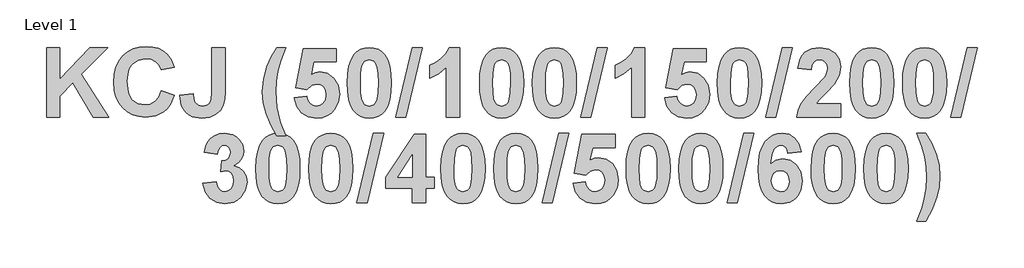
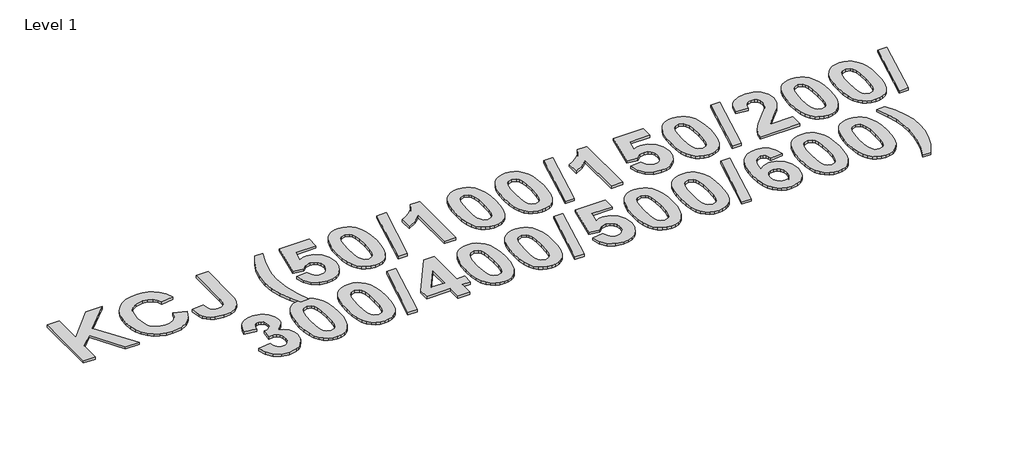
# One storey, part 14 of 42: 1 proxy.
"""IFC4 building model written with IfcOpenShell, lengths in millimetres."""

from ifc_helpers import new_model, si_unit, origin, origin_with_axes, place, context, project, spatial, polyline, outline, extrude, element, save

model = new_model("IFC4")

# Units and contexts
model_context = context("Model", 3, world=origin())
ifc_project = project(units=[si_unit("LENGTHUNIT", "METRE", prefix="MILLI")], contexts=[model_context])

# Site, building, storey
site = spatial("IfcSite", under=ifc_project)
building = spatial("IfcBuilding", under=site)
storey = spatial("IfcBuildingStorey", under=building, Name="Level 1", Elevation=0.0)

# Proxy
placement = place(None, origin())
element("IfcBuildingElementProxy", 1, Name="300mm Arial 2", ObjectType="300mm Arial 2", at=placement, inside=storey, context=model_context, shape_type="SweptSolid", body=[
    extrude(outline(polyline([(-32214.3228423, 14750.7560955), (-32214.3228423, 15005.8209455), (-32165.7390614, 15005.8209455), (-32165.7390614, 14889.5488239), (-32056.299034, 15005.8209455), (-31989.6228554, 15005.8209455), (-32086.157816, 14908.400343), (-31985.574207, 14750.7560955), (-32042.381805, 14750.7560955), (-32117.7246216, 14876.4539767), (-32165.7390614, 14827.9334558), (-32165.7390614, 14750.7560955), (-32214.3228423, 14750.7560955)])), origin_with_axes(), (0.0, 0.0, 1.0), 10.0),
    extrude(outline(polyline([(-31793.2634074, 14847.9236574), (-31744.6796265, 14831.7290637), (-31760.0043933, 14795.9475519), (-31770.5253439, 14782.012531), (-31782.952006, 14770.7146669), (-31813.3168691, 14755.7457383), (-31850.8933872, 14750.7560955), (-31875.2208615, 14752.8871712), (-31897.2788785, 14759.2803982), (-31917.0674384, 14769.9357766), (-31934.5865411, 14784.8533063), (-31948.9228683, 14803.4676), (-31959.1631021, 14825.2132702), (-31965.3072424, 14850.0903169), (-31967.3552891, 14878.0987401), (-31965.2894505, 14907.6333139), (-31959.0919345, 14933.6727655), (-31948.7627411, 14956.2170949), (-31934.3018705, 14975.266302), (-31916.4723978, 14990.4052422), (-31896.0373985, 15001.2187709), (-31872.9968725, 15007.7068881), (-31847.3508198, 15009.8695939), (-31824.9251032, 15008.0864489), (-31804.7134912, 15002.7370141), (-31786.7159838, 14993.8212893), (-31770.932581, 14981.3392746), (-31755.6078142, 14960.827177), (-31744.6796265, 14932.945274), (-31793.2634074, 14924.8479772), (-31800.7043804, 14941.6514496), (-31813.4117593, 14954.4853488), (-31830.4050121, 14962.6221832), (-31850.7036068, 14965.3344613), (-31878.1505963, 14960.4080786), (-31899.888359, 14945.6289304), (-31908.1497367, 14934.2519911), (-31914.0507209, 14919.8267043), (-31918.7715082, 14881.8310878), (-31914.1930562, 14841.7557946), (-31908.4699912, 14826.7710509), (-31900.4577001, 14815.1549093), (-31879.3841689, 14800.2571483), (-31852.7911911, 14795.291228), (-31832.7140069, 14798.4621421), (-31815.6258639, 14807.9748844), (-31802.2384386, 14824.3039058), (-31793.2634074, 14847.9236574)])), origin_with_axes(), (0.0, 0.0, 1.0), 10.0),
    extrude(outline(polyline([(-31607.0255804, 15005.8209455), (-31558.4417995, 15005.8209455), (-31558.4417995, 14844.5708704), (-31559.8651524, 14816.5782622), (-31564.1352113, 14795.8605692), (-31574.8261735, 14775.8387376), (-31591.7166286, 14760.1818551), (-31614.9014668, 14750.0760491), (-31644.4755782, 14746.7074471), (-31678.4462688, 14752.1082808), (-31692.1104572, 14758.8593229), (-31703.560541, 14768.310782), (-31712.6225548, 14780.3756751), (-31719.1225334, 14794.9670198), (-31724.4363844, 14831.7290637), (-31675.8526034, 14835.7777121), (-31673.6226838, 14817.1476034), (-31668.8307289, 14804.906768), (-31657.4122751, 14794.6586267), (-31641.2493115, 14791.2425796), (-31625.2682208, 14793.6939097), (-31614.7749465, 14801.0479), (-31608.962922, 14816.1038113), (-31607.0255804, 14841.6609044), (-31607.0255804, 15005.8209455)])), origin_with_axes(), (0.0, 0.0, 1.0), 10.0),
    extrude(outline(polyline([(-31335.7661368, 14681.9290725), (-31368.1553241, 14681.9290725), (-31390.8261737, 14721.6010824), (-31407.3449755, 14762.8071505), (-31417.427059, 14804.1081088), (-31420.7877535, 14844.0647894), (-31416.6758449, 14891.4624428), (-31404.3401193, 14936.2348009), (-31388.1455256, 14972.5144863), (-31368.1553241, 15005.8209455), (-31335.7661368, 15005.8209455), (-31353.3287308, 14958.5814423), (-31364.3913463, 14918.964785), (-31370.2508159, 14882.0841284), (-31372.2039725, 14843.0526273), (-31367.5227228, 14786.4031795), (-31354.6809161, 14731.3352351), (-31335.7661368, 14681.9290725)])), origin_with_axes(), (0.0, 0.0, 1.0), 10.0),
    extrude(outline(polyline([(-31303.3769495, 14822.5563447), (-31258.841817, 14827.6804153), (-31254.6982783, 14812.608689), (-31246.4428312, 14801.0479), (-31235.3406781, 14793.6939097), (-31222.6570218, 14791.2425796), (-31208.4630298, 14793.8441525), (-31196.6254777, 14801.6488712), (-31188.6309786, 14814.6883658), (-31185.9661455, 14832.9942664), (-31188.4411982, 14850.153577), (-31195.8663561, 14862.4102275), (-31207.2610873, 14869.7642178), (-31221.6448597, 14872.2155479), (-31240.4647488, 14867.1547373), (-31257.1970535, 14851.9723058), (-31299.3283011, 14858.2350588), (-31270.9877622, 15001.7722971), (-31149.5283098, 15001.7722971), (-31149.5283098, 14953.1885161), (-31231.7032206, 14953.1885161), (-31241.5085409, 14906.8188398), (-31226.0256238, 14914.2677202), (-31210.1947759, 14916.7506804), (-31182.0756474, 14911.0019159), (-31158.5745086, 14893.7556226), (-31142.6804006, 14867.3366102), (-31137.3823646, 14834.0696886), (-31141.7947587, 14805.1439935), (-31155.0319412, 14779.4761952), (-31168.249355, 14765.1398679), (-31183.799486, 14754.8996341), (-31201.6823344, 14748.7554938), (-31221.8979002, 14746.7074471), (-31252.9032721, 14751.8473327), (-31277.5984459, 14767.2669898), (-31294.8131092, 14791.3690999), (-31303.3769495, 14822.5563447)])), origin_with_axes(), (0.0, 0.0, 1.0), 10.0),
    extrude(outline(polyline([(-31028.0688574, 15005.8209455), (-31010.9372231, 15004.176182), (-30995.7903754, 14999.2418918), (-30982.6283143, 14991.0180747), (-30971.4510398, 14979.5047308), (-30960.7956614, 14961.3767494), (-30953.1846768, 14938.1167898), (-30948.6180861, 14909.724852), (-30947.0958892, 14876.2009361), (-30948.6259936, 14842.7086503), (-30953.2163069, 14814.2850825), (-30960.8668291, 14790.9302327), (-30971.5775601, 14772.644101), (-30982.6994819, 14761.2968149), (-30995.8220054, 14753.1916105), (-31010.9451306, 14748.3284879), (-31028.0688574, 14746.7074471), (-31045.376434, 14748.4866383), (-31060.9245882, 14753.8242118), (-31074.71332, 14762.7201678), (-31086.7426294, 14775.1745062), (-31096.4985278, 14792.1954353), (-31103.4670266, 14814.7911635), (-31107.6481259, 14842.9616908), (-31109.0418257, 14876.7070172), (-31107.5117213, 14910.0332452), (-31102.921408, 14938.3382002), (-31095.2708858, 14961.6218824), (-31084.5601548, 14979.8842916), (-31073.438233, 14991.2315776), (-31060.3157094, 14999.336782), (-31045.1925843, 15004.1999046), (-31028.0688574, 15005.8209455)]), holes=[polyline([(-31028.0688574, 14961.2858129), (-31044.2634511, 14955.9403318), (-31050.5894642, 14948.4677288), (-31055.270714, 14936.7408819), (-31059.161212, 14912.5913267), (-31060.4580447, 14876.2009361), (-31059.3035473, 14840.292904), (-31055.8400551, 14817.7169446), (-31050.6131868, 14804.4639471), (-31044.1685609, 14796.5248006), (-31028.0688574, 14791.2425796), (-31011.8742638, 14796.5880607), (-31005.5482506, 14804.0606637), (-31000.8670009, 14815.7875106), (-30996.9765028, 14839.8105455), (-30995.6796701, 14876.2009361), (-30996.8341675, 14912.0694307), (-31000.2976597, 14934.6532976), (-31005.5245281, 14947.9458327), (-31011.969154, 14955.9403318), (-31028.0688574, 14961.2858129)])]), origin_with_axes(), (0.0, 0.0, 1.0), 10.0),
    extrude(outline(polyline([(-30931.7869374, 14750.7560955), (-30871.0572112, 15005.8209455), (-30833.7337336, 15005.8209455), (-30894.4634598, 14750.7560955), (-30931.7869374, 14750.7560955)])), origin_with_axes(), (0.0, 0.0, 1.0), 10.0),
    extrude(outline(polyline([(-30696.0796876, 14750.7560955), (-30744.6634686, 14750.7560955), (-30744.6634686, 14933.0717943), (-30772.7193369, 14909.1910947), (-30805.3931947, 14892.4587899), (-30805.3931947, 14941.0425709), (-30785.9248893, 14950.1283072), (-30764.8434505, 14964.8600104), (-30746.3873071, 14983.8775874), (-30734.7948881, 15005.8209455), (-30696.0796876, 15005.8209455), (-30696.0796876, 14750.7560955)])), origin_with_axes(), (0.0, 0.0, 1.0), 10.0),
    extrude(outline(polyline([(-30542.2310479, 15005.8209455), (-30525.0994136, 15004.176182), (-30509.9525659, 14999.2418918), (-30496.7905048, 14991.0180747), (-30485.6132303, 14979.5047308), (-30474.9578519, 14961.3767494), (-30467.3468673, 14938.1167898), (-30462.7802766, 14909.724852), (-30461.2580797, 14876.2009361), (-30462.7881841, 14842.7086503), (-30467.3784974, 14814.2850825), (-30475.0290195, 14790.9302327), (-30485.7397506, 14772.644101), (-30496.8616724, 14761.2968149), (-30509.9841959, 14753.1916105), (-30525.1073211, 14748.3284879), (-30542.2310479, 14746.7074471), (-30559.5386245, 14748.4866383), (-30575.0867787, 14753.8242118), (-30588.8755105, 14762.7201678), (-30600.9048199, 14775.1745062), (-30610.6607182, 14792.1954353), (-30617.6292171, 14814.7911635), (-30621.8103164, 14842.9616908), (-30623.2040162, 14876.7070172), (-30621.6739118, 14910.0332452), (-30617.0835985, 14938.3382002), (-30609.4330763, 14961.6218824), (-30598.7223453, 14979.8842916), (-30587.6004235, 14991.2315776), (-30574.4778999, 14999.336782), (-30559.3547748, 15004.1999046), (-30542.2310479, 15005.8209455)]), holes=[polyline([(-30542.2310479, 14961.2858129), (-30558.4256416, 14955.9403318), (-30564.7516547, 14948.4677288), (-30569.4329045, 14936.7408819), (-30573.3234025, 14912.5913267), (-30574.6202352, 14876.2009361), (-30573.4657378, 14840.292904), (-30570.0022456, 14817.7169446), (-30564.7753773, 14804.4639471), (-30558.3307514, 14796.5248006), (-30542.2310479, 14791.2425796), (-30526.0364543, 14796.5880607), (-30519.7104411, 14804.0606637), (-30515.0291914, 14815.7875106), (-30511.1386933, 14839.8105455), (-30509.8418606, 14876.2009361), (-30510.996358, 14912.0694307), (-30514.4598502, 14934.6532976), (-30519.6867186, 14947.9458327), (-30526.1313445, 14955.9403318), (-30542.2310479, 14961.2858129)])]), origin_with_axes(), (0.0, 0.0, 1.0), 10.0),
    extrude(outline(polyline([(-30347.8959241, 15005.8209455), (-30330.7642898, 15004.176182), (-30315.6174421, 14999.2418918), (-30302.455381, 14991.0180747), (-30291.2781065, 14979.5047308), (-30280.6227281, 14961.3767494), (-30273.0117435, 14938.1167898), (-30268.4451528, 14909.724852), (-30266.9229559, 14876.2009361), (-30268.4530603, 14842.7086503), (-30273.0433736, 14814.2850825), (-30280.6938957, 14790.9302327), (-30291.4046268, 14772.644101), (-30302.5265486, 14761.2968149), (-30315.6490721, 14753.1916105), (-30330.7721973, 14748.3284879), (-30347.8959241, 14746.7074471), (-30365.2035007, 14748.4866383), (-30380.7516549, 14753.8242118), (-30394.5403867, 14762.7201678), (-30406.569696, 14775.1745062), (-30416.3255944, 14792.1954353), (-30423.2940933, 14814.7911635), (-30427.4751926, 14842.9616908), (-30428.8688924, 14876.7070172), (-30427.338788, 14910.0332452), (-30422.7484747, 14938.3382002), (-30415.0979525, 14961.6218824), (-30404.3872215, 14979.8842916), (-30393.2652997, 14991.2315776), (-30380.1427761, 14999.336782), (-30365.019651, 15004.1999046), (-30347.8959241, 15005.8209455)]), holes=[polyline([(-30347.8959241, 14961.2858129), (-30364.0905178, 14955.9403318), (-30370.4165309, 14948.4677288), (-30375.0977807, 14936.7408819), (-30378.9882787, 14912.5913267), (-30380.2851114, 14876.2009361), (-30379.130614, 14840.292904), (-30375.6671218, 14817.7169446), (-30370.4402535, 14804.4639471), (-30363.9956276, 14796.5248006), (-30347.8959241, 14791.2425796), (-30331.7013305, 14796.5880607), (-30325.3753173, 14804.0606637), (-30320.6940676, 14815.7875106), (-30316.8035695, 14839.8105455), (-30315.5067368, 14876.2009361), (-30316.6612342, 14912.0694307), (-30320.1247264, 14934.6532976), (-30325.3515948, 14947.9458327), (-30331.7962207, 14955.9403318), (-30347.8959241, 14961.2858129)])]), origin_with_axes(), (0.0, 0.0, 1.0), 10.0),
    extrude(outline(polyline([(-30251.6140041, 14750.7560955), (-30190.8842779, 15005.8209455), (-30153.5608003, 15005.8209455), (-30214.2905265, 14750.7560955), (-30251.6140041, 14750.7560955)])), origin_with_axes(), (0.0, 0.0, 1.0), 10.0),
    extrude(outline(polyline([(-30015.9067543, 14750.7560955), (-30064.4905353, 14750.7560955), (-30064.4905353, 14933.0717943), (-30092.5464036, 14909.1910947), (-30125.2202614, 14892.4587899), (-30125.2202614, 14941.0425709), (-30105.751956, 14950.1283072), (-30084.6705172, 14964.8600104), (-30066.2143738, 14983.8775874), (-30054.6219548, 15005.8209455), (-30015.9067543, 15005.8209455), (-30015.9067543, 14750.7560955)])), origin_with_axes(), (0.0, 0.0, 1.0), 10.0),
    extrude(outline(polyline([(-29943.0310829, 14822.5563447), (-29898.4959503, 14827.6804153), (-29894.3524117, 14812.608689), (-29886.0969646, 14801.0479), (-29874.9948115, 14793.6939097), (-29862.3111552, 14791.2425796), (-29848.1171632, 14793.8441525), (-29836.2796111, 14801.6488712), (-29828.285112, 14814.6883658), (-29825.6202789, 14832.9942664), (-29828.0953316, 14850.153577), (-29835.5204895, 14862.4102275), (-29846.9152207, 14869.7642178), (-29861.2989931, 14872.2155479), (-29880.1188822, 14867.1547373), (-29896.8511869, 14851.9723058), (-29938.9824345, 14858.2350588), (-29910.6418956, 15001.7722971), (-29789.1824432, 15001.7722971), (-29789.1824432, 14953.1885161), (-29871.357354, 14953.1885161), (-29881.1626743, 14906.8188398), (-29865.6797572, 14914.2677202), (-29849.8489093, 14916.7506804), (-29821.7297808, 14911.0019159), (-29798.228642, 14893.7556226), (-29782.334534, 14867.3366102), (-29777.036498, 14834.0696886), (-29781.4488921, 14805.1439935), (-29794.6860746, 14779.4761952), (-29807.9034884, 14765.1398679), (-29823.4536194, 14754.8996341), (-29841.3364678, 14748.7554938), (-29861.5520336, 14746.7074471), (-29892.5574055, 14751.8473327), (-29917.2525793, 14767.2669898), (-29934.4672426, 14791.3690999), (-29943.0310829, 14822.5563447)])), origin_with_axes(), (0.0, 0.0, 1.0), 10.0),
    extrude(outline(polyline([(-29667.7229908, 15005.8209455), (-29650.5913565, 15004.176182), (-29635.4445088, 14999.2418918), (-29622.2824477, 14991.0180747), (-29611.1051732, 14979.5047308), (-29600.4497948, 14961.3767494), (-29592.8388102, 14938.1167898), (-29588.2722195, 14909.724852), (-29586.7500226, 14876.2009361), (-29588.280127, 14842.7086503), (-29592.8704403, 14814.2850825), (-29600.5209624, 14790.9302327), (-29611.2316934, 14772.644101), (-29622.3536153, 14761.2968149), (-29635.4761388, 14753.1916105), (-29650.599264, 14748.3284879), (-29667.7229908, 14746.7074471), (-29685.0305674, 14748.4866383), (-29700.5787216, 14753.8242118), (-29714.3674534, 14762.7201678), (-29726.3967627, 14775.1745062), (-29736.1526611, 14792.1954353), (-29743.12116, 14814.7911635), (-29747.3022593, 14842.9616908), (-29748.6959591, 14876.7070172), (-29747.1658547, 14910.0332452), (-29742.5755414, 14938.3382002), (-29734.9250192, 14961.6218824), (-29724.2142882, 14979.8842916), (-29713.0923664, 14991.2315776), (-29699.9698428, 14999.336782), (-29684.8467177, 15004.1999046), (-29667.7229908, 15005.8209455)]), holes=[polyline([(-29667.7229908, 14961.2858129), (-29683.9175845, 14955.9403318), (-29690.2435976, 14948.4677288), (-29694.9248474, 14936.7408819), (-29698.8153454, 14912.5913267), (-29700.1121781, 14876.2009361), (-29698.9576807, 14840.292904), (-29695.4941885, 14817.7169446), (-29690.2673202, 14804.4639471), (-29683.8226943, 14796.5248006), (-29667.7229908, 14791.2425796), (-29651.5283972, 14796.5880607), (-29645.202384, 14804.0606637), (-29640.5211343, 14815.7875106), (-29636.6306362, 14839.8105455), (-29635.3338035, 14876.2009361), (-29636.4883009, 14912.0694307), (-29639.9517931, 14934.6532976), (-29645.1786615, 14947.9458327), (-29651.6232874, 14955.9403318), (-29667.7229908, 14961.2858129)])]), origin_with_axes(), (0.0, 0.0, 1.0), 10.0),
    extrude(outline(polyline([(-29571.4410708, 14750.7560955), (-29510.7113446, 15005.8209455), (-29473.387867, 15005.8209455), (-29534.1175932, 14750.7560955), (-29571.4410708, 14750.7560955)])), origin_with_axes(), (0.0, 0.0, 1.0), 10.0),
    extrude(outline(polyline([(-29295.2473369, 14799.3398764), (-29295.2473369, 14750.7560955), (-29457.1932734, 14750.7560955), (-29452.0217576, 14775.2614889), (-29441.6945412, 14798.4226045), (-29422.5109063, 14824.6043914), (-29390.7701354, 14858.1717987), (-29353.1936173, 14898.9113233), (-29346.1717427, 14913.6193039), (-29343.8311178, 14928.137504), (-29345.8000894, 14942.2840509), (-29351.7070042, 14952.7140651), (-29361.0774112, 14959.142876), (-29373.4368593, 14961.2858129), (-29385.7093248, 14959.174506), (-29395.1983446, 14952.8405854), (-29401.5876178, 14941.6198196), (-29404.560844, 14924.8479772), (-29453.144625, 14929.2761864), (-29444.5412471, 14964.4250969), (-29436.9184012, 14977.6642563), (-29427.0814508, 14988.0132185), (-29402.4574446, 15001.3690137), (-29372.3614371, 15005.8209455), (-29340.2252903, 15000.8313026), (-29315.8068796, 14985.862374), (-29300.3872226, 14963.476195), (-29295.2473369, 14936.2348009), (-29300.8774886, 14904.0986541), (-29318.7168456, 14872.1522877), (-29348.9235584, 14840.2691815), (-29376.663126, 14812.624504), (-29385.772585, 14799.3398764), (-29295.2473369, 14799.3398764)])), origin_with_axes(), (0.0, 0.0, 1.0), 10.0),
    extrude(outline(polyline([(-29181.8851813, 15005.8209455), (-29164.753547, 15004.176182), (-29149.6066993, 14999.2418918), (-29136.4446382, 14991.0180747), (-29125.2673637, 14979.5047308), (-29114.6119853, 14961.3767494), (-29107.0010007, 14938.1167898), (-29102.43441, 14909.724852), (-29100.9122131, 14876.2009361), (-29102.4423175, 14842.7086503), (-29107.0326308, 14814.2850825), (-29114.6831529, 14790.9302327), (-29125.3938839, 14772.644101), (-29136.5158058, 14761.2968149), (-29149.6383293, 14753.1916105), (-29164.7614545, 14748.3284879), (-29181.8851813, 14746.7074471), (-29199.1927579, 14748.4866383), (-29214.7409121, 14753.8242118), (-29228.5296439, 14762.7201678), (-29240.5589532, 14775.1745062), (-29250.3148516, 14792.1954353), (-29257.2833505, 14814.7911635), (-29261.4644498, 14842.9616908), (-29262.8581496, 14876.7070172), (-29261.3280451, 14910.0332452), (-29256.7377319, 14938.3382002), (-29249.0872097, 14961.6218824), (-29238.3764787, 14979.8842916), (-29227.2545568, 14991.2315776), (-29214.1320333, 14999.336782), (-29199.0089082, 15004.1999046), (-29181.8851813, 15005.8209455)]), holes=[polyline([(-29181.8851813, 14961.2858129), (-29198.079775, 14955.9403318), (-29204.4057881, 14948.4677288), (-29209.0870378, 14936.7408819), (-29212.9775359, 14912.5913267), (-29214.2743686, 14876.2009361), (-29213.1198712, 14840.292904), (-29209.656379, 14817.7169446), (-29204.4295107, 14804.4639471), (-29197.9848848, 14796.5248006), (-29181.8851813, 14791.2425796), (-29165.6905877, 14796.5880607), (-29159.3645745, 14804.0606637), (-29154.6833248, 14815.7875106), (-29150.7928267, 14839.8105455), (-29149.495994, 14876.2009361), (-29150.6504914, 14912.0694307), (-29154.1139836, 14934.6532976), (-29159.340852, 14947.9458327), (-29165.7854779, 14955.9403318), (-29181.8851813, 14961.2858129)])]), origin_with_axes(), (0.0, 0.0, 1.0), 10.0),
    extrude(outline(polyline([(-28987.5500575, 15005.8209455), (-28970.4184232, 15004.176182), (-28955.2715755, 14999.2418918), (-28942.1095144, 14991.0180747), (-28930.9322399, 14979.5047308), (-28920.2768615, 14961.3767494), (-28912.6658769, 14938.1167898), (-28908.0992862, 14909.724852), (-28906.5770893, 14876.2009361), (-28908.1071937, 14842.7086503), (-28912.697507, 14814.2850825), (-28920.3480291, 14790.9302327), (-28931.0587601, 14772.644101), (-28942.180682, 14761.2968149), (-28955.3032055, 14753.1916105), (-28970.4263307, 14748.3284879), (-28987.5500575, 14746.7074471), (-29004.8576341, 14748.4866383), (-29020.4057883, 14753.8242118), (-29034.1945201, 14762.7201678), (-29046.2238294, 14775.1745062), (-29055.9797278, 14792.1954353), (-29062.9482267, 14814.7911635), (-29067.129326, 14842.9616908), (-29068.5230258, 14876.7070172), (-29066.9929213, 14910.0332452), (-29062.4026081, 14938.3382002), (-29054.7520859, 14961.6218824), (-29044.0413549, 14979.8842916), (-29032.919433, 14991.2315776), (-29019.7969095, 14999.336782), (-29004.6737844, 15004.1999046), (-28987.5500575, 15005.8209455)]), holes=[polyline([(-28987.5500575, 14961.2858129), (-29003.7446512, 14955.9403318), (-29010.0706643, 14948.4677288), (-29014.751914, 14936.7408819), (-29018.6424121, 14912.5913267), (-29019.9392448, 14876.2009361), (-29018.7847474, 14840.292904), (-29015.3212552, 14817.7169446), (-29010.0943869, 14804.4639471), (-29003.649761, 14796.5248006), (-28987.5500575, 14791.2425796), (-28971.3554639, 14796.5880607), (-28965.0294507, 14804.0606637), (-28960.348201, 14815.7875106), (-28956.4577029, 14839.8105455), (-28955.1608702, 14876.2009361), (-28956.3153676, 14912.0694307), (-28959.7788598, 14934.6532976), (-28965.0057282, 14947.9458327), (-28971.4503541, 14955.9403318), (-28987.5500575, 14961.2858129)])]), origin_with_axes(), (0.0, 0.0, 1.0), 10.0),
    extrude(outline(polyline([(-28891.2681375, 14750.7560955), (-28830.5384113, 15005.8209455), (-28793.2149337, 15005.8209455), (-28853.9446599, 14750.7560955), (-28891.2681375, 14750.7560955)])), origin_with_axes(), (0.0, 0.0, 1.0), 10.0),
    extrude(outline(polyline([(-31639.4147677, 14507.271889), (-31590.8309868, 14512.9020407), (-31587.082824, 14497.2767882), (-31579.886984, 14485.8267045), (-31570.0342186, 14478.8048299), (-31558.3152792, 14476.464205), (-31545.7423281, 14479.1448531), (-31535.3518515, 14487.1867973), (-31528.377422, 14499.7676559), (-31526.0526122, 14516.0650473), (-31528.1797341, 14531.4847043), (-31534.5610999, 14543.3301639), (-31544.010582, 14550.8739346), (-31555.342053, 14553.3885248), (-31574.6363931, 14549.7826973), (-31570.3979643, 14589.8263606), (-31556.5677181, 14591.5660142), (-31546.4540046, 14597.7971371), (-31540.2624192, 14607.6657176), (-31538.1985574, 14620.3177439), (-31539.7405231, 14631.0640587), (-31544.3664202, 14639.3906735), (-31551.5543527, 14644.7282471), (-31560.7824243, 14646.5074383), (-31570.1686463, 14644.4435765), (-31578.0840703, 14638.2519912), (-31583.8486498, 14628.0908326), (-31586.7823384, 14614.118251), (-31635.3661193, 14621.3931661), (-31629.8071353, 14643.1309288), (-31621.9866015, 14660.0134764), (-31611.2640092, 14672.9264507), (-31596.9988496, 14682.7554936), (-31580.0055968, 14688.9708016), (-31561.098725, 14691.0425709), (-31530.4491913, 14685.3017139), (-31517.6627372, 14678.1256428), (-31506.5684917, 14668.0791431), (-31493.8532053, 14648.0573115), (-31489.6147765, 14625.5683348), (-31491.8881874, 14609.6228279), (-31498.7084204, 14595.3774371), (-31510.0754752, 14582.8321623), (-31525.989352, 14571.9870035), (-31506.1256708, 14564.4353253), (-31490.6901987, 14551.1427902), (-31480.7741731, 14533.2797106), (-31477.4688312, 14512.0163989), (-31483.3283009, 14481.2482524), (-31500.9067099, 14455.3669512), (-31513.3432564, 14445.1128792), (-31527.2150171, 14437.7885421), (-31559.2641812, 14431.9290725), (-31589.5262466, 14437.1401258), (-31614.1423452, 14452.7732858), (-31631.3570085, 14476.8200432), (-31639.4147677, 14507.271889)])), origin_with_axes(), (0.0, 0.0, 1.0), 10.0),
    extrude(outline(polyline([(-31364.1066757, 14691.0425709), (-31346.9750413, 14689.3978074), (-31331.8281936, 14684.4635172), (-31318.6661325, 14676.2397001), (-31307.488858, 14664.7263562), (-31296.8334796, 14646.5983748), (-31289.2224951, 14623.3384152), (-31284.6559043, 14594.9464774), (-31283.1337074, 14561.4225615), (-31284.6638119, 14527.9302757), (-31289.2541251, 14499.5067079), (-31296.9046473, 14476.1518581), (-31307.6153783, 14457.8657264), (-31318.7373002, 14446.5184403), (-31331.8598237, 14438.4132359), (-31346.9829488, 14433.5501133), (-31364.1066757, 14431.9290725), (-31381.4142523, 14433.7082637), (-31396.9624064, 14439.0458372), (-31410.7511382, 14447.9417932), (-31422.7804476, 14460.3961316), (-31432.536346, 14477.4170607), (-31439.5048448, 14500.0127889), (-31443.6859442, 14528.1833162), (-31445.0796439, 14561.9286426), (-31443.5495395, 14595.2548706), (-31438.9592262, 14623.5598256), (-31431.3087041, 14646.8435078), (-31420.5979731, 14665.105917), (-31409.4760512, 14676.453203), (-31396.3535277, 14684.5584074), (-31381.2304025, 14689.42153), (-31364.1066757, 14691.0425709)]), holes=[polyline([(-31364.1066757, 14646.5074383), (-31380.3012693, 14641.1619572), (-31386.6272825, 14633.6893542), (-31391.3085322, 14621.9625073), (-31395.1990303, 14597.8129521), (-31396.495863, 14561.4225615), (-31395.3413656, 14525.5145294), (-31391.8778734, 14502.93857), (-31386.651005, 14489.6855725), (-31380.2063791, 14481.746426), (-31364.1066757, 14476.464205), (-31347.912082, 14481.8096861), (-31341.5860689, 14489.2822891), (-31336.9048192, 14501.009136), (-31333.0143211, 14525.0321709), (-31331.7174884, 14561.4225615), (-31332.8719858, 14597.2910561), (-31336.335478, 14619.874923), (-31341.5623463, 14633.1674581), (-31348.0069722, 14641.1619572), (-31364.1066757, 14646.5074383)])]), origin_with_axes(), (0.0, 0.0, 1.0), 10.0),
    extrude(outline(polyline([(-31169.7715519, 14691.0425709), (-31152.6399175, 14689.3978074), (-31137.4930698, 14684.4635172), (-31124.3310087, 14676.2397001), (-31113.1537342, 14664.7263562), (-31102.4983558, 14646.5983748), (-31094.8873713, 14623.3384152), (-31090.3207805, 14594.9464774), (-31088.7985836, 14561.4225615), (-31090.3286881, 14527.9302757), (-31094.9190013, 14499.5067079), (-31102.5695235, 14476.1518581), (-31113.2802545, 14457.8657264), (-31124.4021764, 14446.5184403), (-31137.5246999, 14438.4132359), (-31152.647825, 14433.5501133), (-31169.7715519, 14431.9290725), (-31187.0791285, 14433.7082637), (-31202.6272826, 14439.0458372), (-31216.4160144, 14447.9417932), (-31228.4453238, 14460.3961316), (-31238.2012222, 14477.4170607), (-31245.169721, 14500.0127889), (-31249.3508204, 14528.1833162), (-31250.7445201, 14561.9286426), (-31249.2144157, 14595.2548706), (-31244.6241024, 14623.5598256), (-31236.9735803, 14646.8435078), (-31226.2628493, 14665.105917), (-31215.1409274, 14676.453203), (-31202.0184039, 14684.5584074), (-31186.8952787, 14689.42153), (-31169.7715519, 14691.0425709)]), holes=[polyline([(-31169.7715519, 14646.5074383), (-31185.9661455, 14641.1619572), (-31192.2921587, 14633.6893542), (-31196.9734084, 14621.9625073), (-31200.8639065, 14597.8129521), (-31202.1607392, 14561.4225615), (-31201.0062418, 14525.5145294), (-31197.5427496, 14502.93857), (-31192.3158812, 14489.6855725), (-31185.8712553, 14481.746426), (-31169.7715519, 14476.464205), (-31153.5769582, 14481.8096861), (-31147.2509451, 14489.2822891), (-31142.5696954, 14501.009136), (-31138.6791973, 14525.0321709), (-31137.3823646, 14561.4225615), (-31138.536862, 14597.2910561), (-31142.0003542, 14619.874923), (-31147.2272225, 14633.1674581), (-31153.6718484, 14641.1619572), (-31169.7715519, 14646.5074383)])]), origin_with_axes(), (0.0, 0.0, 1.0), 10.0),
    extrude(outline(polyline([(-31073.4896318, 14435.9777209), (-31012.7599056, 14691.0425709), (-30975.4364281, 14691.0425709), (-31036.1661543, 14435.9777209), (-31073.4896318, 14435.9777209)])), origin_with_axes(), (0.0, 0.0, 1.0), 10.0),
    extrude(outline(polyline([(-30870.1715693, 14435.9777209), (-30870.1715693, 14488.6101502), (-30967.3391313, 14488.6101502), (-30967.3391313, 14528.906854), (-30863.7190359, 14686.9939225), (-30821.5877884, 14686.9939225), (-30821.5877884, 14529.0966344), (-30789.1986011, 14529.0966344), (-30789.1986011, 14488.6101502), (-30821.5877884, 14488.6101502), (-30821.5877884, 14435.9777209), (-30870.1715693, 14435.9777209)]), holes=[polyline([(-30870.1715693, 14529.0966344), (-30870.1715693, 14611.9674066), (-30924.4487621, 14529.0966344), (-30870.1715693, 14529.0966344)])]), origin_with_axes(), (0.0, 0.0, 1.0), 10.0),
    extrude(outline(polyline([(-30683.9337424, 14691.0425709), (-30666.802108, 14689.3978074), (-30651.6552603, 14684.4635172), (-30638.4931992, 14676.2397001), (-30627.3159247, 14664.7263562), (-30616.6605463, 14646.5983748), (-30609.0495618, 14623.3384152), (-30604.482971, 14594.9464774), (-30602.9607741, 14561.4225615), (-30604.4908786, 14527.9302757), (-30609.0811918, 14499.5067079), (-30616.731714, 14476.1518581), (-30627.442445, 14457.8657264), (-30638.5643669, 14446.5184403), (-30651.6868904, 14438.4132359), (-30666.8100155, 14433.5501133), (-30683.9337424, 14431.9290725), (-30701.241319, 14433.7082637), (-30716.7894731, 14439.0458372), (-30730.5782049, 14447.9417932), (-30742.6075143, 14460.3961316), (-30752.3634127, 14477.4170607), (-30759.3319115, 14500.0127889), (-30763.5130109, 14528.1833162), (-30764.9067106, 14561.9286426), (-30763.3766062, 14595.2548706), (-30758.7862929, 14623.5598256), (-30751.1357708, 14646.8435078), (-30740.4250398, 14665.105917), (-30729.3031179, 14676.453203), (-30716.1805944, 14684.5584074), (-30701.0574692, 14689.42153), (-30683.9337424, 14691.0425709)]), holes=[polyline([(-30683.9337424, 14646.5074383), (-30700.128336, 14641.1619572), (-30706.4543492, 14633.6893542), (-30711.1355989, 14621.9625073), (-30715.026097, 14597.8129521), (-30716.3229297, 14561.4225615), (-30715.1684323, 14525.5145294), (-30711.7049401, 14502.93857), (-30706.4780717, 14489.6855725), (-30700.0334458, 14481.746426), (-30683.9337424, 14476.464205), (-30667.7391487, 14481.8096861), (-30661.4131356, 14489.2822891), (-30656.7318859, 14501.009136), (-30652.8413878, 14525.0321709), (-30651.5445551, 14561.4225615), (-30652.6990525, 14597.2910561), (-30656.1625447, 14619.874923), (-30661.389413, 14633.1674581), (-30667.8340389, 14641.1619572), (-30683.9337424, 14646.5074383)])]), origin_with_axes(), (0.0, 0.0, 1.0), 10.0),
    extrude(outline(polyline([(-30489.5986186, 14691.0425709), (-30472.4669842, 14689.3978074), (-30457.3201365, 14684.4635172), (-30444.1580754, 14676.2397001), (-30432.9808009, 14664.7263562), (-30422.3254225, 14646.5983748), (-30414.714438, 14623.3384152), (-30410.1478472, 14594.9464774), (-30408.6256503, 14561.4225615), (-30410.1557548, 14527.9302757), (-30414.746068, 14499.5067079), (-30422.3965902, 14476.1518581), (-30433.1073212, 14457.8657264), (-30444.2292431, 14446.5184403), (-30457.3517666, 14438.4132359), (-30472.4748917, 14433.5501133), (-30489.5986186, 14431.9290725), (-30506.9061952, 14433.7082637), (-30522.4543493, 14439.0458372), (-30536.2430811, 14447.9417932), (-30548.2723905, 14460.3961316), (-30558.0282889, 14477.4170607), (-30564.9967877, 14500.0127889), (-30569.1778871, 14528.1833162), (-30570.5715868, 14561.9286426), (-30569.0414824, 14595.2548706), (-30564.4511691, 14623.5598256), (-30556.800647, 14646.8435078), (-30546.089916, 14665.105917), (-30534.9679941, 14676.453203), (-30521.8454706, 14684.5584074), (-30506.7223454, 14689.42153), (-30489.5986186, 14691.0425709)]), holes=[polyline([(-30489.5986186, 14646.5074383), (-30505.7932122, 14641.1619572), (-30512.1192254, 14633.6893542), (-30516.8004751, 14621.9625073), (-30520.6909732, 14597.8129521), (-30521.9878059, 14561.4225615), (-30520.8333085, 14525.5145294), (-30517.3698163, 14502.93857), (-30512.1429479, 14489.6855725), (-30505.698322, 14481.746426), (-30489.5986186, 14476.464205), (-30473.4040249, 14481.8096861), (-30467.0780118, 14489.2822891), (-30462.3967621, 14501.009136), (-30458.506264, 14525.0321709), (-30457.2094313, 14561.4225615), (-30458.3639287, 14597.2910561), (-30461.8274209, 14619.874923), (-30467.0542892, 14633.1674581), (-30473.4989151, 14641.1619572), (-30489.5986186, 14646.5074383)])]), origin_with_axes(), (0.0, 0.0, 1.0), 10.0),
    extrude(outline(polyline([(-30393.3166985, 14435.9777209), (-30332.5869723, 14691.0425709), (-30295.2634948, 14691.0425709), (-30355.993221, 14435.9777209), (-30393.3166985, 14435.9777209)])), origin_with_axes(), (0.0, 0.0, 1.0), 10.0),
    extrude(outline(polyline([(-30279.0689011, 14507.7779701), (-30234.5337686, 14512.9020407), (-30230.39023, 14497.8303144), (-30222.1347828, 14486.2695254), (-30211.0326298, 14478.9155351), (-30198.3489734, 14476.464205), (-30184.1549814, 14479.0657779), (-30172.3174293, 14486.8704966), (-30164.3229302, 14499.9099912), (-30161.6580972, 14518.2158918), (-30164.1331498, 14535.3752024), (-30171.5583077, 14547.6318529), (-30182.9530389, 14554.9858432), (-30197.3368113, 14557.4371732), (-30216.1567004, 14552.3763627), (-30232.8890052, 14537.1939312), (-30275.0202527, 14543.4566842), (-30246.6797138, 14686.9939225), (-30125.2202614, 14686.9939225), (-30125.2202614, 14638.4101415), (-30207.3951722, 14638.4101415), (-30217.2004926, 14592.0404652), (-30201.7175754, 14599.4893456), (-30185.8867275, 14601.9723058), (-30157.7675991, 14596.2235413), (-30134.2664602, 14578.977248), (-30118.3723522, 14552.5582356), (-30113.0743162, 14519.291314), (-30117.4867104, 14490.3656189), (-30130.7238929, 14464.6978206), (-30143.9413066, 14450.3614933), (-30159.4914377, 14440.1212595), (-30177.3742861, 14433.9771192), (-30197.5898518, 14431.9290725), (-30228.5952237, 14437.0689581), (-30253.2903976, 14452.4886152), (-30270.5050608, 14476.5907253), (-30279.0689011, 14507.7779701)])), origin_with_axes(), (0.0, 0.0, 1.0), 10.0),
    extrude(outline(polyline([(-30003.7608091, 14691.0425709), (-29986.6291747, 14689.3978074), (-29971.482327, 14684.4635172), (-29958.3202659, 14676.2397001), (-29947.1429914, 14664.7263562), (-29936.487613, 14646.5983748), (-29928.8766285, 14623.3384152), (-29924.3100377, 14594.9464774), (-29922.7878408, 14561.4225615), (-29924.3179452, 14527.9302757), (-29928.9082585, 14499.5067079), (-29936.5587807, 14476.1518581), (-29947.2695117, 14457.8657264), (-29958.3914335, 14446.5184403), (-29971.5139571, 14438.4132359), (-29986.6370822, 14433.5501133), (-30003.7608091, 14431.9290725), (-30021.0683857, 14433.7082637), (-30036.6165398, 14439.0458372), (-30050.4052716, 14447.9417932), (-30062.434581, 14460.3961316), (-30072.1904794, 14477.4170607), (-30079.1589782, 14500.0127889), (-30083.3400775, 14528.1833162), (-30084.7337773, 14561.9286426), (-30083.2036729, 14595.2548706), (-30078.6133596, 14623.5598256), (-30070.9628375, 14646.8435078), (-30060.2521064, 14665.105917), (-30049.1301846, 14676.453203), (-30036.0076611, 14684.5584074), (-30020.8845359, 14689.42153), (-30003.7608091, 14691.0425709)]), holes=[polyline([(-30003.7608091, 14646.5074383), (-30019.9554027, 14641.1619572), (-30026.2814159, 14633.6893542), (-30030.9626656, 14621.9625073), (-30034.8531637, 14597.8129521), (-30036.1499964, 14561.4225615), (-30034.995499, 14525.5145294), (-30031.5320068, 14502.93857), (-30026.3051384, 14489.6855725), (-30019.8605125, 14481.746426), (-30003.7608091, 14476.464205), (-29987.5662154, 14481.8096861), (-29981.2402023, 14489.2822891), (-29976.5589525, 14501.009136), (-29972.6684545, 14525.0321709), (-29971.3716218, 14561.4225615), (-29972.5261192, 14597.2910561), (-29975.9896114, 14619.874923), (-29981.2164797, 14633.1674581), (-29987.6611056, 14641.1619572), (-30003.7608091, 14646.5074383)])]), origin_with_axes(), (0.0, 0.0, 1.0), 10.0),
    extrude(outline(polyline([(-29809.4256853, 14691.0425709), (-29792.2940509, 14689.3978074), (-29777.1472032, 14684.4635172), (-29763.9851421, 14676.2397001), (-29752.8078676, 14664.7263562), (-29742.1524892, 14646.5983748), (-29734.5415047, 14623.3384152), (-29729.9749139, 14594.9464774), (-29728.452717, 14561.4225615), (-29729.9828214, 14527.9302757), (-29734.5731347, 14499.5067079), (-29742.2236569, 14476.1518581), (-29752.9343879, 14457.8657264), (-29764.0563097, 14446.5184403), (-29777.1788333, 14438.4132359), (-29792.3019584, 14433.5501133), (-29809.4256853, 14431.9290725), (-29826.7332619, 14433.7082637), (-29842.281416, 14439.0458372), (-29856.0701478, 14447.9417932), (-29868.0994572, 14460.3961316), (-29877.8553556, 14477.4170607), (-29884.8238544, 14500.0127889), (-29889.0049537, 14528.1833162), (-29890.3986535, 14561.9286426), (-29888.8685491, 14595.2548706), (-29884.2782358, 14623.5598256), (-29876.6277137, 14646.8435078), (-29865.9169826, 14665.105917), (-29854.7950608, 14676.453203), (-29841.6725373, 14684.5584074), (-29826.5494121, 14689.42153), (-29809.4256853, 14691.0425709)]), holes=[polyline([(-29809.4256853, 14646.5074383), (-29825.6202789, 14641.1619572), (-29831.9462921, 14633.6893542), (-29836.6275418, 14621.9625073), (-29840.5180399, 14597.8129521), (-29841.8148726, 14561.4225615), (-29840.6603752, 14525.5145294), (-29837.196883, 14502.93857), (-29831.9700146, 14489.6855725), (-29825.5253887, 14481.746426), (-29809.4256853, 14476.464205), (-29793.2310916, 14481.8096861), (-29786.9050785, 14489.2822891), (-29782.2238287, 14501.009136), (-29778.3333307, 14525.0321709), (-29777.036498, 14561.4225615), (-29778.1909954, 14597.2910561), (-29781.6544876, 14619.874923), (-29786.8813559, 14633.1674581), (-29793.3259818, 14641.1619572), (-29809.4256853, 14646.5074383)])]), origin_with_axes(), (0.0, 0.0, 1.0), 10.0),
    extrude(outline(polyline([(-29713.1437652, 14435.9777209), (-29652.414039, 14691.0425709), (-29615.0905615, 14691.0425709), (-29675.8202877, 14435.9777209), (-29713.1437652, 14435.9777209)])), origin_with_axes(), (0.0, 0.0, 1.0), 10.0),
    extrude(outline(polyline([(-29440.9986797, 14623.3542302), (-29489.5824607, 14618.1668994), (-29492.5556869, 14630.7635731), (-29498.1858386, 14639.5804539), (-29506.1882452, 14644.7756922), (-29516.2782361, 14646.5074383), (-29529.8791644, 14643.1467438), (-29541.2027279, 14633.0646604), (-29549.5056202, 14612.2283546), (-29554.0445346, 14576.6049931), (-29534.022703, 14592.5939913), (-29509.6359223, 14597.9236574), (-29481.809372, 14592.2302455), (-29458.3003257, 14575.1500101), (-29442.2876049, 14549.0710209), (-29436.9500313, 14516.3813479), (-29442.4062177, 14481.9441139), (-29449.2264506, 14467.5544109), (-29458.7747767, 14455.0506505), (-29470.4660397, 14444.9349601), (-29483.7150835, 14437.709467), (-29514.8865133, 14431.9290725), (-29532.4174772, 14433.7952463), (-29548.3194927, 14439.393768), (-29562.5925599, 14448.7246374), (-29575.2366787, 14461.7878545), (-29585.5876177, 14479.1013617), (-29592.9811455, 14501.1831014), (-29597.4172622, 14528.0330734), (-29598.8959678, 14559.6512779), (-29597.3520252, 14592.1037253), (-29592.7201975, 14619.6851426), (-29585.0004846, 14642.3955298), (-29574.1928865, 14660.2348868), (-29560.9181433, 14673.7132486), (-29545.796995, 14683.3406499), (-29528.8294416, 14689.1170906), (-29510.0154831, 14691.0425709), (-29484.6956155, 14686.7092519), (-29464.1518878, 14673.7092948), (-29449.2857569, 14652.4538907), (-29440.9986797, 14623.3542302)]), holes=[polyline([(-29550.3121869, 14517.4567702), (-29547.6868914, 14500.0365115), (-29539.811005, 14487.1235371), (-29528.5665167, 14479.129038), (-29515.8354152, 14476.464205), (-29503.9425105, 14478.6466795), (-29494.2004503, 14485.1941031), (-29487.7004718, 14496.7232621), (-29485.5338123, 14513.8509427), (-29487.8665296, 14531.6033171), (-29494.8646817, 14543.8678751), (-29505.357956, 14551.0083624), (-29518.1760401, 14553.3885248), (-29530.6145634, 14551.1111601), (-29540.9813175, 14544.2790659), (-29547.9794695, 14533.0187625), (-29550.3121869, 14517.4567702)])]), origin_with_axes(), (0.0, 0.0, 1.0), 10.0),
    extrude(outline(polyline([(-29323.5878758, 14691.0425709), (-29306.4562414, 14689.3978074), (-29291.3093937, 14684.4635172), (-29278.1473326, 14676.2397001), (-29266.9700581, 14664.7263562), (-29256.3146797, 14646.5983748), (-29248.7036952, 14623.3384152), (-29244.1371044, 14594.9464774), (-29242.6149075, 14561.4225615), (-29244.1450119, 14527.9302757), (-29248.7353252, 14499.5067079), (-29256.3858474, 14476.1518581), (-29267.0965784, 14457.8657264), (-29278.2185002, 14446.5184403), (-29291.3410238, 14438.4132359), (-29306.4641489, 14433.5501133), (-29323.5878758, 14431.9290725), (-29340.8954524, 14433.7082637), (-29356.4436065, 14439.0458372), (-29370.2323383, 14447.9417932), (-29382.2616477, 14460.3961316), (-29392.0175461, 14477.4170607), (-29398.9860449, 14500.0127889), (-29403.1671442, 14528.1833162), (-29404.560844, 14561.9286426), (-29403.0307396, 14595.2548706), (-29398.4404263, 14623.5598256), (-29390.7899042, 14646.8435078), (-29380.0791731, 14665.105917), (-29368.9572513, 14676.453203), (-29355.8347278, 14684.5584074), (-29340.7116026, 14689.42153), (-29323.5878758, 14691.0425709)]), holes=[polyline([(-29323.5878758, 14646.5074383), (-29339.7824694, 14641.1619572), (-29346.1084826, 14633.6893542), (-29350.7897323, 14621.9625073), (-29354.6802304, 14597.8129521), (-29355.9770631, 14561.4225615), (-29354.8225657, 14525.5145294), (-29351.3590735, 14502.93857), (-29346.1322051, 14489.6855725), (-29339.6875792, 14481.746426), (-29323.5878758, 14476.464205), (-29307.3932821, 14481.8096861), (-29301.067269, 14489.2822891), (-29296.3860192, 14501.009136), (-29292.4955212, 14525.0321709), (-29291.1986885, 14561.4225615), (-29292.3531859, 14597.2910561), (-29295.8166781, 14619.874923), (-29301.0435464, 14633.1674581), (-29307.4881723, 14641.1619572), (-29323.5878758, 14646.5074383)])]), origin_with_axes(), (0.0, 0.0, 1.0), 10.0),
    extrude(outline(polyline([(-29129.252752, 14691.0425709), (-29112.1211176, 14689.3978074), (-29096.9742699, 14684.4635172), (-29083.8122088, 14676.2397001), (-29072.6349343, 14664.7263562), (-29061.9795559, 14646.5983748), (-29054.3685714, 14623.3384152), (-29049.8019806, 14594.9464774), (-29048.2797837, 14561.4225615), (-29049.8098881, 14527.9302757), (-29054.4002014, 14499.5067079), (-29062.0507236, 14476.1518581), (-29072.7614546, 14457.8657264), (-29083.8833764, 14446.5184403), (-29097.0059, 14438.4132359), (-29112.1290251, 14433.5501133), (-29129.252752, 14431.9290725), (-29146.5603286, 14433.7082637), (-29162.1084827, 14439.0458372), (-29175.8972145, 14447.9417932), (-29187.9265239, 14460.3961316), (-29197.6824223, 14477.4170607), (-29204.6509211, 14500.0127889), (-29208.8320204, 14528.1833162), (-29210.2257202, 14561.9286426), (-29208.6956158, 14595.2548706), (-29204.1053025, 14623.5598256), (-29196.4547803, 14646.8435078), (-29185.7440493, 14665.105917), (-29174.6221275, 14676.453203), (-29161.499604, 14684.5584074), (-29146.3764788, 14689.42153), (-29129.252752, 14691.0425709)]), holes=[polyline([(-29129.252752, 14646.5074383), (-29145.4473456, 14641.1619572), (-29151.7733588, 14633.6893542), (-29156.4546085, 14621.9625073), (-29160.3451066, 14597.8129521), (-29161.6419393, 14561.4225615), (-29160.4874419, 14525.5145294), (-29157.0239497, 14502.93857), (-29151.7970813, 14489.6855725), (-29145.3524554, 14481.746426), (-29129.252752, 14476.464205), (-29113.0581583, 14481.8096861), (-29106.7321452, 14489.2822891), (-29102.0508954, 14501.009136), (-29098.1603974, 14525.0321709), (-29096.8635647, 14561.4225615), (-29098.0180621, 14597.2910561), (-29101.4815543, 14619.874923), (-29106.7084226, 14633.1674581), (-29113.1530485, 14641.1619572), (-29129.252752, 14646.5074383)])]), origin_with_axes(), (0.0, 0.0, 1.0), 10.0),
    extrude(outline(polyline([(-29015.8905964, 14367.1506979), (-28997.893089, 14413.1408134), (-28988.2142889, 14450.0531001), (-28981.6036052, 14489.7488326), (-28979.4527607, 14528.2742527), (-28981.3980097, 14567.3057538), (-28987.2337569, 14604.1864104), (-28998.2884648, 14643.8030677), (-29015.8905964, 14691.0425709), (-28983.5014091, 14691.0425709), (-28961.3050105, 14653.7032783), (-28944.6913185, 14614.1815112), (-28934.3245644, 14573.2838362), (-28930.8689797, 14531.81682), (-28933.6366105, 14495.3157242), (-28941.9395028, 14456.2842231), (-28958.6559925, 14411.4169748), (-28983.5014091, 14367.1506979), (-29015.8905964, 14367.1506979)])), origin_with_axes(), (0.0, 0.0, 1.0), 10.0),
])

save(model, "model.ifc")
